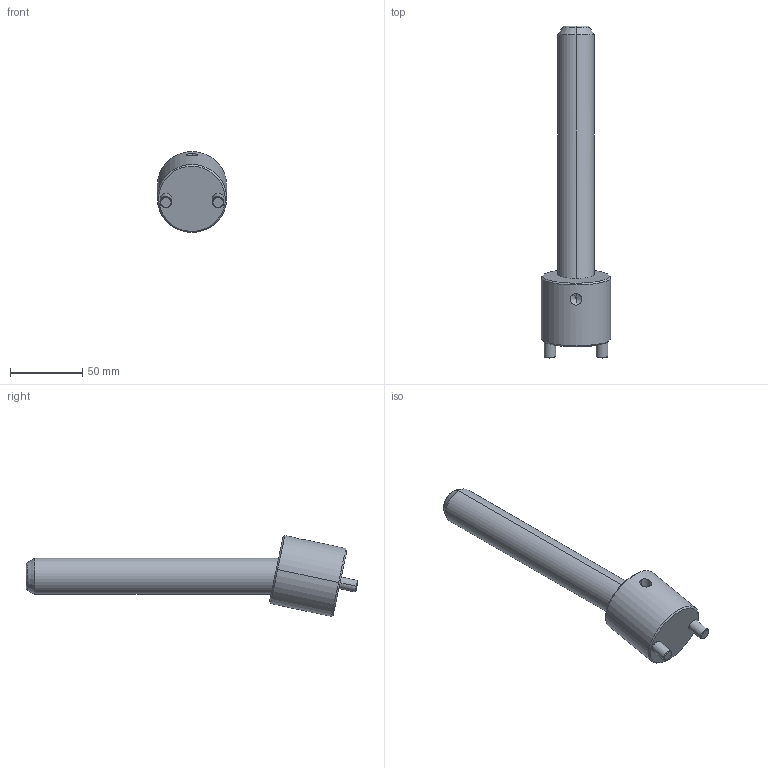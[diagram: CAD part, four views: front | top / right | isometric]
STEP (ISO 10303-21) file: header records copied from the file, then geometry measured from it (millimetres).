
FILE_DESCRIPTION(('CATIA V5 STEP Exchange'),'2;1');
FILE_NAME('C:\Users\Raffaele\Desktop\3D BOLEX\3D FILES CF BOLEX\19-INCLINED ASSEMBLY REF_CI\CI1225175.stp','2019-06-21T14:08:33+00:00',('none'),('none'),'CATIA Version 5 Release 20 GA (IN-10)','CATIA V5 STEP AP203','none');
FILE_SCHEMA(('CONFIG_CONTROL_DESIGN'));
Length unit declared in the file: millimetre
Products named in the file (1): CI1225175
Assembly tree (2 placements, depth 2):
  CI1225175
    #58
    #608
Bounding box: 48 x 229.52 x 55.89 mm (x, y, z)
Volume: 164994.7 mm3; surface area: 31333 mm2
Topology: 2 solids, 2 shells, 39 faces, 82 edges, 47 vertices
Faces by surface type: cone 14, cylinder 14, plane 7, torus 4
Entity records: 1542 total; most frequent: CARTESIAN_POINT 683, ORIENTED_EDGE 160, DIRECTION 145, EDGE_CURVE 80, AXIS2_PLACEMENT_3D 72, VERTEX_POINT 47, EDGE_LOOP 43, ADVANCED_FACE 39
